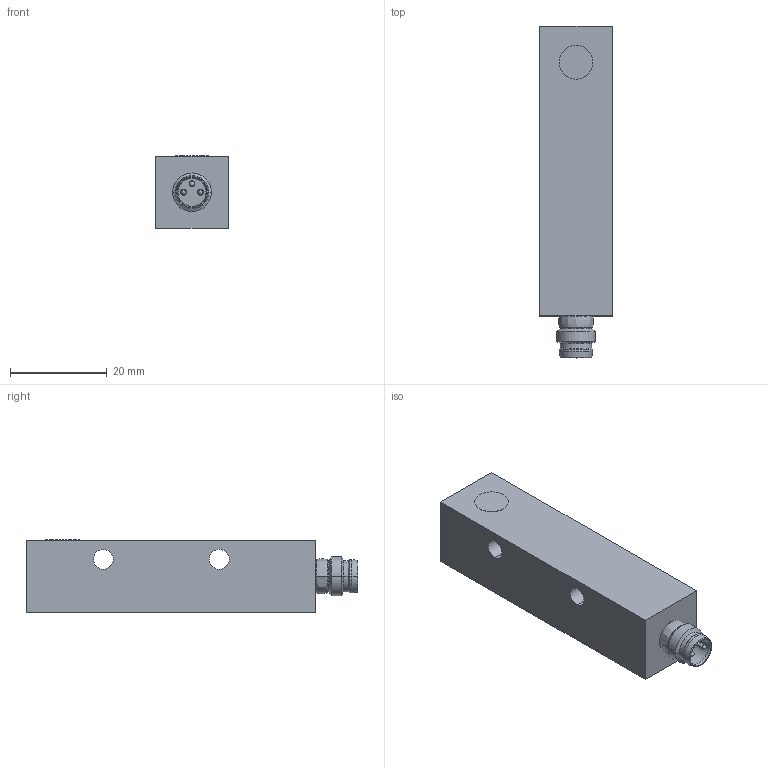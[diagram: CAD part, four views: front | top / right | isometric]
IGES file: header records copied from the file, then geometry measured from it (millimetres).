
Start section: IMSI TurboCAD v14.0
Global section: author: NULL; organization: NULL; date: 20200625.160607; units: millimetre
Bounding box: 15 x 68.7 x 15.1 mm (x, y, z)
Surface area: 4933.3 mm2 (no closed solid volume)
Topology: 0 solids, 0 shells, 73 faces, 300 edges, 294 vertices
Faces by surface type: revolution 49, extrusion 22, bspline 2
